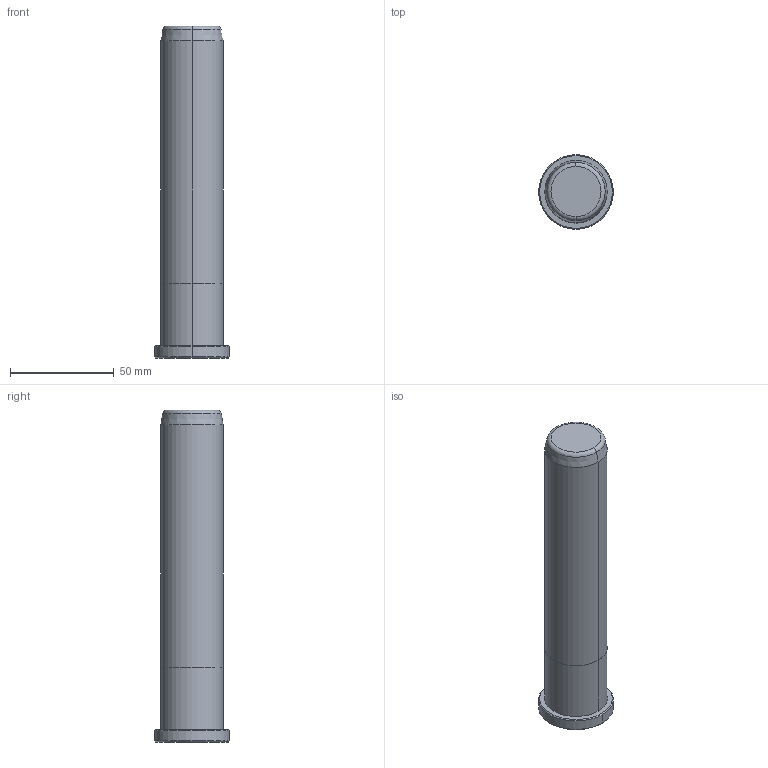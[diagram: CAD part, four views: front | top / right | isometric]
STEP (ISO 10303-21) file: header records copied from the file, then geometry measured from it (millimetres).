
FILE_DESCRIPTION((''),'2;1');
FILE_NAME('B82830160','2018-01-22T',('MANU'),(''),'PRO/ENGINEER BY PARAMETRIC TECHNOLOGY CORPORATION, 2012130','PRO/ENGINEER BY PARAMETRIC TECHNOLOGY CORPORATION, 2012130','');
FILE_SCHEMA(('CONFIG_CONTROL_DESIGN'));
Length unit declared in the file: millimetre
Products named in the file (1): B82830160
Bounding box: 36 x 36 x 160 mm (x, y, z)
Volume: 114520 mm3; surface area: 16984.4 mm2
Topology: 1 solids, 1 shells, 18 faces, 34 edges, 20 vertices
Faces by surface type: cone 6, cylinder 6, plane 4, torus 2
Entity records: 494 total; most frequent: DIRECTION 92, CARTESIAN_POINT 72, ORIENTED_EDGE 68, AXIS2_PLACEMENT_3D 40, EDGE_CURVE 34, CIRCLE 22, VERTEX_POINT 20, EDGE_LOOP 20
